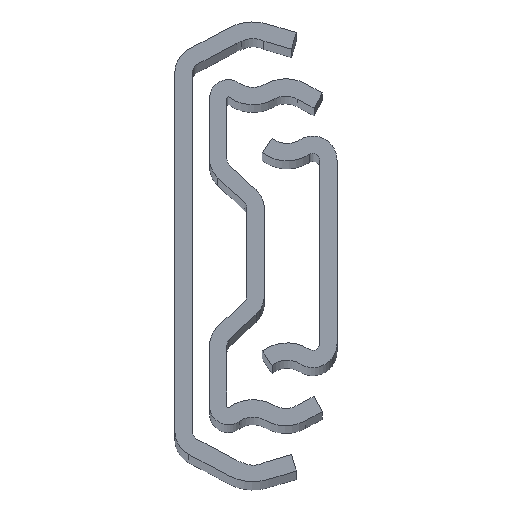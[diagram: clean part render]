
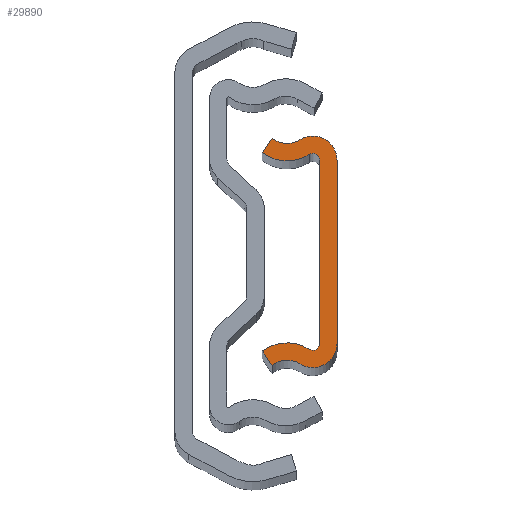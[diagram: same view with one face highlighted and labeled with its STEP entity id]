
A CAD part, top view. The second image highlights one B-rep face of the part: STEP entity #29890.
In plain terms, the highlighted planar face has unit normal (0, 0, 1).
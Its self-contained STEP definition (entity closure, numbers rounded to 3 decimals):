
#525 = LINE ( 'NONE', #25528, #13970 ) ;
#546 = CARTESIAN_POINT ( 'NONE',  ( 2.306, -10.55, 0. ) ) ;
#1155 = VERTEX_POINT ( 'NONE', #546 ) ;
#1458 = CARTESIAN_POINT ( 'NONE',  ( -1.47, -15.294, 0. ) ) ;
#1535 = ORIENTED_EDGE ( 'NONE', *, *, #5345, .T. ) ;
#1626 = ORIENTED_EDGE ( 'NONE', *, *, #18595, .T. ) ;
#2185 = CARTESIAN_POINT ( 'NONE',  ( 2.306, -10.55, 0. ) ) ;
#2744 = CARTESIAN_POINT ( 'NONE',  ( -4.306, -11.422, 0. ) ) ;
#3043 = AXIS2_PLACEMENT_3D ( 'NONE', #10487, #12937, #10029 ) ;
#3376 = VERTEX_POINT ( 'NONE', #16686 ) ;
#3428 = CARTESIAN_POINT ( 'NONE',  ( 1.081, -11.228, 0. ) ) ;
#3472 = CIRCLE ( 'NONE', #21565, 2.8 ) ;
#3525 = CARTESIAN_POINT ( 'NONE',  ( -4.306, 11.422, 0. ) ) ;
#3627 = CARTESIAN_POINT ( 'NONE',  ( 1.506, -10.55, 0. ) ) ;
#3777 = DIRECTION ( 'NONE',  ( 1., 0., 0. ) ) ;
#3950 = VERTEX_POINT ( 'NONE', #27577 ) ;
#4161 = EDGE_CURVE ( 'NONE', #29393, #3376, #23426, .T. ) ;
#4163 = VERTEX_POINT ( 'NONE', #25658 ) ;
#4275 = EDGE_CURVE ( 'NONE', #33111, #3950, #22590, .T. ) ;
#4531 = VERTEX_POINT ( 'NONE', #3428 ) ;
#4534 = CARTESIAN_POINT ( 'NONE',  ( -3.194, -13.089, 0. ) ) ;
#4627 = DIRECTION ( 'NONE',  ( 1., 0., 0. ) ) ;
#4694 = CARTESIAN_POINT ( 'NONE',  ( -1.47, 15.294, 0. ) ) ;
#4989 = EDGE_CURVE ( 'NONE', #6859, #29393, #10084, .T. ) ;
#5345 = EDGE_CURVE ( 'NONE', #1155, #4531, #25195, .T. ) ;
#5539 = FACE_OUTER_BOUND ( 'NONE', #5939, .T. ) ;
#5916 = DIRECTION ( 'NONE',  ( 1., 0., 0. ) ) ;
#5939 = EDGE_LOOP ( 'NONE', ( #29945, #23705, #24134, #12905, #32070, #8074, #31150, #30573, #32900, #1535, #25176, #1626 ) ) ;
#6226 = DIRECTION ( 'NONE',  ( 1., 0., 0. ) ) ;
#6859 = VERTEX_POINT ( 'NONE', #3525 ) ;
#6882 = CARTESIAN_POINT ( 'NONE',  ( -4.306, 11.422, 0. ) ) ;
#7923 = CARTESIAN_POINT ( 'NONE',  ( 0.018, 12.922, 0. ) ) ;
#8074 = ORIENTED_EDGE ( 'NONE', *, *, #20585, .T. ) ;
#8118 = VECTOR ( 'NONE', #15887, 1000. ) ;
#8659 = VECTOR ( 'NONE', #34784, 1000. ) ;
#9215 = AXIS2_PLACEMENT_3D ( 'NONE', #13508, #29965, #3777 ) ;
#9808 = CARTESIAN_POINT ( 'NONE',  ( 1.506, 10.55, 0. ) ) ;
#10029 = DIRECTION ( 'NONE',  ( -1., 0., 0. ) ) ;
#10084 = CIRCLE ( 'NONE', #30051, 4.8 ) ;
#10487 = CARTESIAN_POINT ( 'NONE',  ( -1.47, 15.294, 0. ) ) ;
#11501 = DIRECTION ( 'NONE',  ( 1., 0., 0. ) ) ;
#12010 = VERTEX_POINT ( 'NONE', #2744 ) ;
#12905 = ORIENTED_EDGE ( 'NONE', *, *, #26422, .T. ) ;
#12932 = VERTEX_POINT ( 'NONE', #4534 ) ;
#12937 = DIRECTION ( 'NONE',  ( 0., 0., -1. ) ) ;
#13066 = EDGE_CURVE ( 'NONE', #3376, #1155, #19987, .T. ) ;
#13508 = CARTESIAN_POINT ( 'NONE',  ( -1.47, -15.294, 0. ) ) ;
#13948 = CARTESIAN_POINT ( 'NONE',  ( -1.47, -15.294, 0. ) ) ;
#13970 = VECTOR ( 'NONE', #20378, 1000. ) ;
#14868 = DIRECTION ( 'NONE',  ( -1., 0., 0. ) ) ;
#15155 = CIRCLE ( 'NONE', #9215, 4.8 ) ;
#15887 = DIRECTION ( 'NONE',  ( -0.555, -0.832, 0. ) ) ;
#16323 = CARTESIAN_POINT ( 'NONE',  ( 1.081, 11.228, 0. ) ) ;
#16354 = EDGE_CURVE ( 'NONE', #20246, #20258, #29355, .T. ) ;
#16686 = CARTESIAN_POINT ( 'NONE',  ( 2.306, 10.55, 0. ) ) ;
#17649 = AXIS2_PLACEMENT_3D ( 'NONE', #3627, #22467, #11501 ) ;
#18183 = DIRECTION ( 'NONE',  ( -1., 0., 0. ) ) ;
#18323 = LINE ( 'NONE', #24223, #21735 ) ;
#18595 = EDGE_CURVE ( 'NONE', #12010, #12932, #18323, .T. ) ;
#19042 = DIRECTION ( 'NONE',  ( 0.555, -0.832, 0. ) ) ;
#19114 = CARTESIAN_POINT ( 'NONE',  ( 4.306, -10.55, 0. ) ) ;
#19427 = CARTESIAN_POINT ( 'NONE',  ( 1.506, -10.55, 0. ) ) ;
#19685 = AXIS2_PLACEMENT_3D ( 'NONE', #28229, #33469, #25632 ) ;
#19838 = PLANE ( 'NONE',  #34571 ) ;
#19987 = LINE ( 'NONE', #2185, #8659 ) ;
#20246 = VERTEX_POINT ( 'NONE', #24872 ) ;
#20258 = VERTEX_POINT ( 'NONE', #19114 ) ;
#20378 = DIRECTION ( 'NONE',  ( 0., 1., 0. ) ) ;
#20585 = EDGE_CURVE ( 'NONE', #3950, #6859, #27036, .T. ) ;
#20858 = EDGE_CURVE ( 'NONE', #20258, #4163, #525, .T. ) ;
#21565 = AXIS2_PLACEMENT_3D ( 'NONE', #1458, #25758, #4627 ) ;
#21735 = VECTOR ( 'NONE', #19042, 1000. ) ;
#22266 = EDGE_CURVE ( 'NONE', #4531, #12010, #15155, .T. ) ;
#22467 = DIRECTION ( 'NONE',  ( 0., 0., 1. ) ) ;
#22590 = CIRCLE ( 'NONE', #3043, 2.8 ) ;
#23426 = CIRCLE ( 'NONE', #30720, 0.8 ) ;
#23705 = ORIENTED_EDGE ( 'NONE', *, *, #16354, .T. ) ;
#24134 = ORIENTED_EDGE ( 'NONE', *, *, #20858, .T. ) ;
#24223 = CARTESIAN_POINT ( 'NONE',  ( -4.306, -11.422, 0. ) ) ;
#24872 = CARTESIAN_POINT ( 'NONE',  ( 0.018, -12.922, 0. ) ) ;
#25176 = ORIENTED_EDGE ( 'NONE', *, *, #22266, .T. ) ;
#25195 = CIRCLE ( 'NONE', #27604, 0.8 ) ;
#25528 = CARTESIAN_POINT ( 'NONE',  ( 4.306, -10.55, 0. ) ) ;
#25632 = DIRECTION ( 'NONE',  ( -1., 0., 0. ) ) ;
#25658 = CARTESIAN_POINT ( 'NONE',  ( 4.306, 10.55, 0. ) ) ;
#25758 = DIRECTION ( 'NONE',  ( 0., 0., -1. ) ) ;
#26422 = EDGE_CURVE ( 'NONE', #4163, #33111, #33899, .T. ) ;
#27036 = LINE ( 'NONE', #6882, #8118 ) ;
#27417 = DIRECTION ( 'NONE',  ( 0., 0., -1. ) ) ;
#27577 = CARTESIAN_POINT ( 'NONE',  ( -3.194, 13.089, 0. ) ) ;
#27604 = AXIS2_PLACEMENT_3D ( 'NONE', #19427, #27417, #5916 ) ;
#28229 = CARTESIAN_POINT ( 'NONE',  ( 1.506, 10.55, 0. ) ) ;
#28894 = DIRECTION ( 'NONE',  ( 0., 0., 1. ) ) ;
#29048 = EDGE_CURVE ( 'NONE', #12932, #20246, #3472, .T. ) ;
#29355 = CIRCLE ( 'NONE', #17649, 2.8 ) ;
#29393 = VERTEX_POINT ( 'NONE', #16323 ) ;
#29890 = ADVANCED_FACE ( 'Face2', ( #5539 ), #19838, .T. ) ;
#29945 = ORIENTED_EDGE ( 'NONE', *, *, #29048, .T. ) ;
#29965 = DIRECTION ( 'NONE',  ( 0., 0., 1. ) ) ;
#30051 = AXIS2_PLACEMENT_3D ( 'NONE', #4694, #28894, #18183 ) ;
#30573 = ORIENTED_EDGE ( 'NONE', *, *, #4161, .T. ) ;
#30720 = AXIS2_PLACEMENT_3D ( 'NONE', #9808, #33851, #14868 ) ;
#31150 = ORIENTED_EDGE ( 'NONE', *, *, #4989, .T. ) ;
#32070 = ORIENTED_EDGE ( 'NONE', *, *, #4275, .T. ) ;
#32735 = DIRECTION ( 'NONE',  ( 0., 0., 1. ) ) ;
#32900 = ORIENTED_EDGE ( 'NONE', *, *, #13066, .T. ) ;
#33111 = VERTEX_POINT ( 'NONE', #7923 ) ;
#33469 = DIRECTION ( 'NONE',  ( 0., 0., 1. ) ) ;
#33851 = DIRECTION ( 'NONE',  ( 0., 0., -1. ) ) ;
#33899 = CIRCLE ( 'NONE', #19685, 2.8 ) ;
#34571 = AXIS2_PLACEMENT_3D ( 'NONE', #13948, #32735, #6226 ) ;
#34784 = DIRECTION ( 'NONE',  ( 0., -1., 0. ) ) ;
